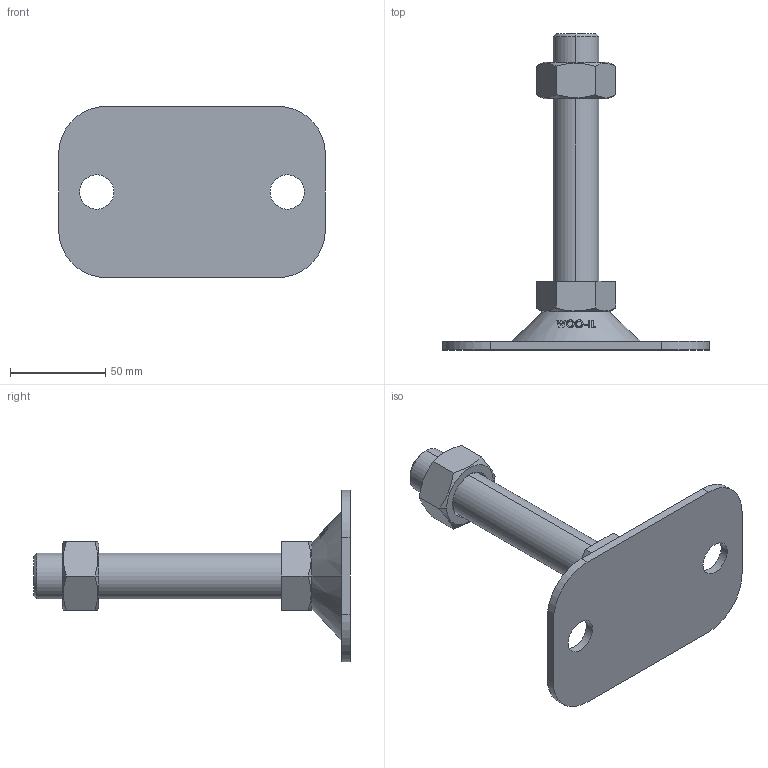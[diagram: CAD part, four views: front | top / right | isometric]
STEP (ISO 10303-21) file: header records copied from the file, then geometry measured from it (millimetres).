
FILE_DESCRIPTION (( 'STEP AP214' ), '1' );
FILE_NAME ('FABL90140-M24-130.step', '2021-03-28T23:54:07', ( '' ), ( '' ), 'SwSTEP 2.0', 'SolidWorks 2019', '' );
FILE_SCHEMA (( 'AUTOMOTIVE_DESIGN' ));
Length unit declared in the file: millimetre
Products named in the file (2): FABL90140-M24-130
Bounding box: 140 x 166 x 90 mm (x, y, z)
Volume: 174363.7 mm3; surface area: 43455 mm2
Topology: 2 solids, 2 shells, 130 faces, 333 edges, 218 vertices
Faces by surface type: plane 50, cylinder 40, cone 22, bspline 18
Entity records: 5607 total; most frequent: CARTESIAN_POINT 2649, ORIENTED_EDGE 666, DIRECTION 485, EDGE_CURVE 333, VERTEX_POINT 218, AXIS2_PLACEMENT_3D 178, EDGE_LOOP 147, B_SPLINE_CURVE_WITH_KNOTS 140
